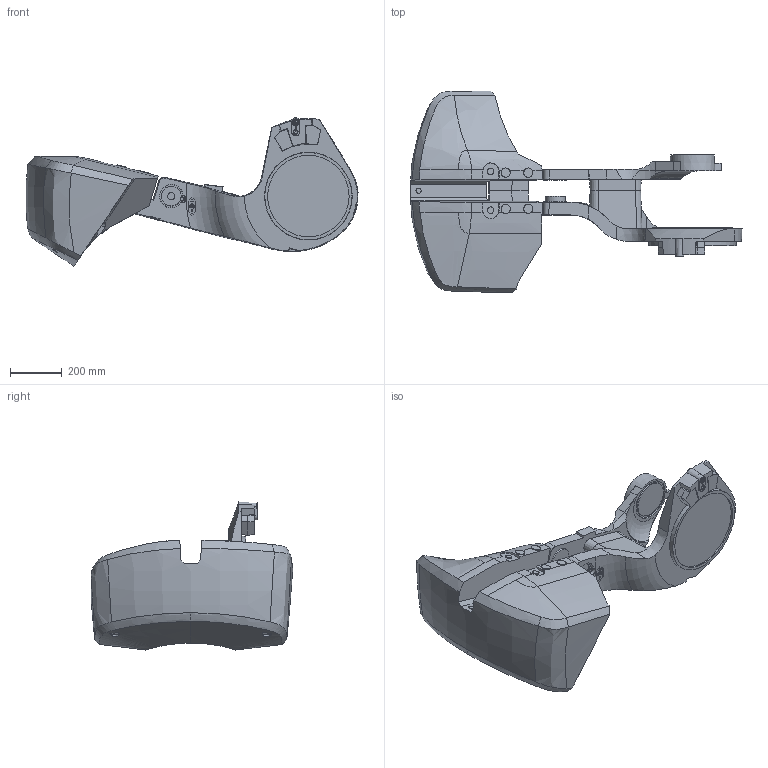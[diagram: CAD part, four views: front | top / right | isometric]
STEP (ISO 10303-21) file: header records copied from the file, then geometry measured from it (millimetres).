
FILE_DESCRIPTION (( 'STEP AP214' ), '1' );
FILE_NAME ('IRB7720_All_OC_00_LINKARM_CAD.step', '2026-01-28T10:34:56', ( '' ), ( '' ), 'SwSTEP 2.0', 'SolidWorks 2024', '' );
FILE_SCHEMA (( 'AUTOMOTIVE_DESIGN' ));
Length unit declared in the file: millimetre
Products named in the file (1): IRB7720_All_OC_00_LINKARM_CAD
Bounding box: 1283.21 x 778.95 x 572.64 mm (x, y, z)
Volume: 92496340.3 mm3; surface area: 2421575.9 mm2
Topology: 1 solids, 1 shells, 456 faces, 1166 edges, 774 vertices
Faces by surface type: plane 241, bspline 76, cylinder 64, cone 59, torus 16
Full cylindrical faces by diameter (mm): 4.8 x1, 12 x1, 14 x1, 16 x1, 17.9 x1, 18 x1, 20 x1, 24.33 x27, 25 x3, 26 x1, 28 x1, 36 x4, 59.95 x1, 60 x1, 77 x1, 315 x1
Entity records: 31545 total; most frequent: CARTESIAN_POINT 16788, ORIENTED_EDGE 2094, DIRECTION 1678, EDGE_CURVE 1047, VERTEX_POINT 723, AXIS2_PLACEMENT_3D 619, EDGE_LOOP 590, FACE_OUTER_BOUND 504
